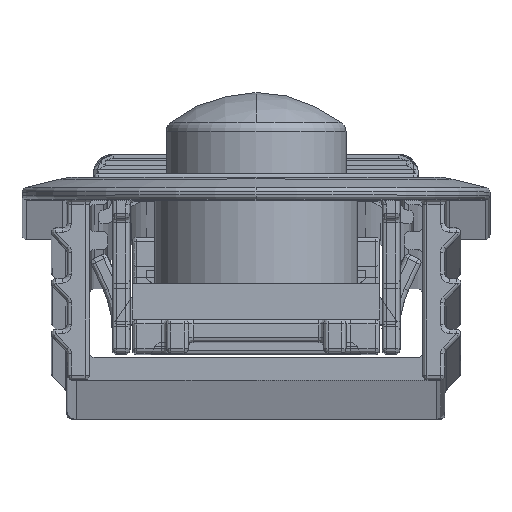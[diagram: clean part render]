
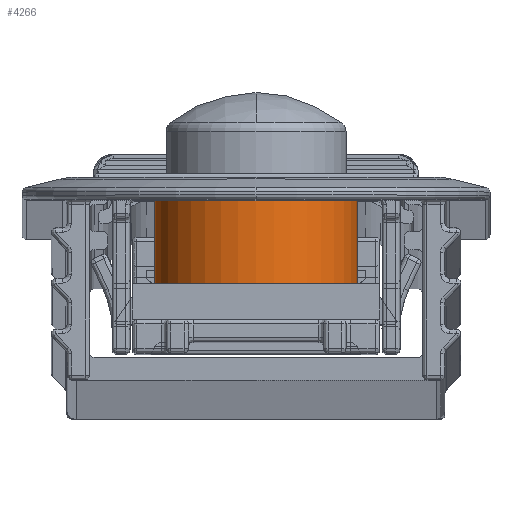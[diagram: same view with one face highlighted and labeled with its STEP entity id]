
A CAD part, top view. The second image highlights one B-rep face of the part: STEP entity #4266.
In plain terms, the highlighted cylindrical face has radius 4.5 mm (diameter 9 mm), a partial arc.
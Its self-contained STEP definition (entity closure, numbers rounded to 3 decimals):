
#3183 = EDGE_LOOP ( 'NONE', ( #13777, #27387, #26638, #29905 ) ) ;
#3616 = VERTEX_POINT ( 'NONE', #20350 ) ;
#3659 = AXIS2_PLACEMENT_3D ( 'NONE', #5724, #23772, #21887 ) ;
#4266 = ADVANCED_FACE ( 'NONE', ( #13694 ), #20968, .T. ) ;
#5263 = VERTEX_POINT ( 'NONE', #7060 ) ;
#5724 = CARTESIAN_POINT ( 'NONE',  ( 0., 0.8, 0. ) ) ;
#5915 = EDGE_CURVE ( 'NONE', #8316, #24147, #18286, .T. ) ;
#7060 = CARTESIAN_POINT ( 'NONE',  ( 0., 0.8, -4.5 ) ) ;
#8316 = VERTEX_POINT ( 'NONE', #20467 ) ;
#9539 = LINE ( 'NONE', #12203, #19919 ) ;
#10529 = DIRECTION ( 'NONE',  ( 0., -1., 0. ) ) ;
#12115 = DIRECTION ( 'NONE',  ( 0., 0., -1. ) ) ;
#12203 = CARTESIAN_POINT ( 'NONE',  ( 0., 0.8, -4.5 ) ) ;
#12226 = VECTOR ( 'NONE', #26394, 1000. ) ;
#12242 = EDGE_CURVE ( 'NONE', #3616, #8316, #29542, .T. ) ;
#13694 = FACE_OUTER_BOUND ( 'NONE', #3183, .T. ) ;
#13777 = ORIENTED_EDGE ( 'NONE', *, *, #12242, .T. ) ;
#15080 = DIRECTION ( 'NONE',  ( 0., -1., 0. ) ) ;
#17974 = DIRECTION ( 'NONE',  ( 0., 0., -1. ) ) ;
#17996 = EDGE_CURVE ( 'NONE', #3616, #5263, #9539, .T. ) ;
#18286 = LINE ( 'NONE', #23580, #12226 ) ;
#19646 = DIRECTION ( 'NONE',  ( 0., -1., 0. ) ) ;
#19919 = VECTOR ( 'NONE', #19646, 1000. ) ;
#20350 = CARTESIAN_POINT ( 'NONE',  ( 0., 5.3, -4.5 ) ) ;
#20467 = CARTESIAN_POINT ( 'NONE',  ( 0., 5.3, 4.5 ) ) ;
#20968 = CYLINDRICAL_SURFACE ( 'NONE', #3659, 4.5 ) ;
#21887 = DIRECTION ( 'NONE',  ( 0., 0., -1. ) ) ;
#22411 = CARTESIAN_POINT ( 'NONE',  ( 0., 0.8, 4.5 ) ) ;
#22450 = EDGE_CURVE ( 'NONE', #5263, #24147, #27742, .T. ) ;
#22985 = AXIS2_PLACEMENT_3D ( 'NONE', #30241, #10529, #17974 ) ;
#23580 = CARTESIAN_POINT ( 'NONE',  ( 0., 0.8, 4.5 ) ) ;
#23772 = DIRECTION ( 'NONE',  ( 0., -1., 0. ) ) ;
#24147 = VERTEX_POINT ( 'NONE', #22411 ) ;
#24235 = AXIS2_PLACEMENT_3D ( 'NONE', #27161, #15080, #12115 ) ;
#26394 = DIRECTION ( 'NONE',  ( 0., -1., 0. ) ) ;
#26638 = ORIENTED_EDGE ( 'NONE', *, *, #22450, .F. ) ;
#27161 = CARTESIAN_POINT ( 'NONE',  ( 0., 5.3, 0. ) ) ;
#27387 = ORIENTED_EDGE ( 'NONE', *, *, #5915, .T. ) ;
#27742 = CIRCLE ( 'NONE', #22985, 4.5 ) ;
#29542 = CIRCLE ( 'NONE', #24235, 4.5 ) ;
#29905 = ORIENTED_EDGE ( 'NONE', *, *, #17996, .F. ) ;
#30241 = CARTESIAN_POINT ( 'NONE',  ( 0., 0.8, 0. ) ) ;
